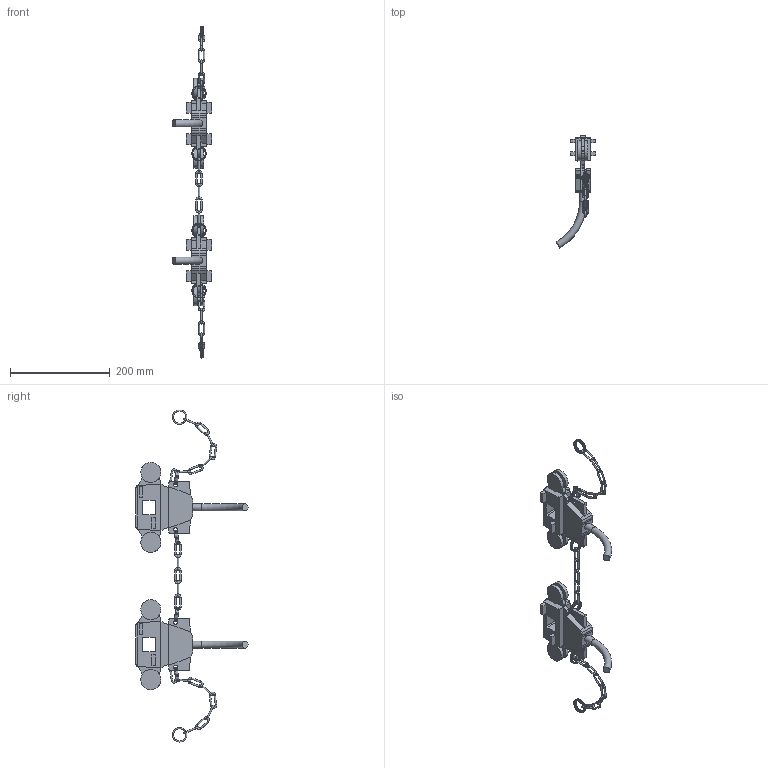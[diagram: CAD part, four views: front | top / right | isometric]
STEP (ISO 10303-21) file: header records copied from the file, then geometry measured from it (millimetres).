
FILE_DESCRIPTION(/* description */ ('Unknown'),/* implementation_level */ '2;1');
FILE_NAME(/* name */ 'MI403x_chariot double_SPL',/* time_stamp */ '2018-08-16T10:23:04+02:00',/* author */ ('Unknown'),/* organization */ ('Unknown'),/* preprocessor_version */ 'ST-DEVELOPER v16.7',/* originating_system */ 'DEX',/* authorisation */ $);
FILE_SCHEMA (('AUTOMOTIVE_DESIGN {1 0 10303 214 3 1 1}'));
Length unit declared in the file: millimetre
Products named in the file (11): Assemblage chariot double simplifié; corps de chariot simplifié; chaine4_1_mir2; MAILLON-CHAINETTE_1; ANNEAU-ELASTIQUE_1_mir3; chaine4_1; ANNEAU-ELASTIQUE_1; Chainette 5 maillons; ANNEAU-ELASTIQUE_1_mir; ANNEAU-ELASTIQUE_1_mir2
Assembly tree (32 placements, depth 3):
  Assemblage chariot double simplifié
    corps de chariot simplifié  x2
    chaine4_1_mir2
      MAILLON-CHAINETTE_1  x8
      ANNEAU-ELASTIQUE_1_mir3
    chaine4_1
      MAILLON-CHAINETTE_1  x8
      ANNEAU-ELASTIQUE_1
    Chainette 5 maillons
      MAILLON-CHAINETTE_1  x5
    ANNEAU-ELASTIQUE_1_mir
    ANNEAU-ELASTIQUE_1_mir2
    ANNEAU-ELASTIQUE_1_mir3
    ANNEAU-ELASTIQUE_1
Bounding box: 79 x 224.43 x 665.08 mm (x, y, z)
Volume: 594867.8 mm3; surface area: 139387.6 mm2
Topology: 29 solids, 29 shells, 348 faces, 918 edges, 596 vertices
Faces by surface type: plane 172, cylinder 116, bspline 58, torus 2
Full cylindrical faces by diameter (mm): 3 x42, 8 x4, 14 x2, 40 x8
Entity records: 7575 total; most frequent: CARTESIAN_POINT 2948, DIRECTION 762, ORIENTED_EDGE 666, EDGE_CURVE 333, AXIS2_PLACEMENT_3D 273, VERTEX_POINT 225, LINE 216, VECTOR 216
